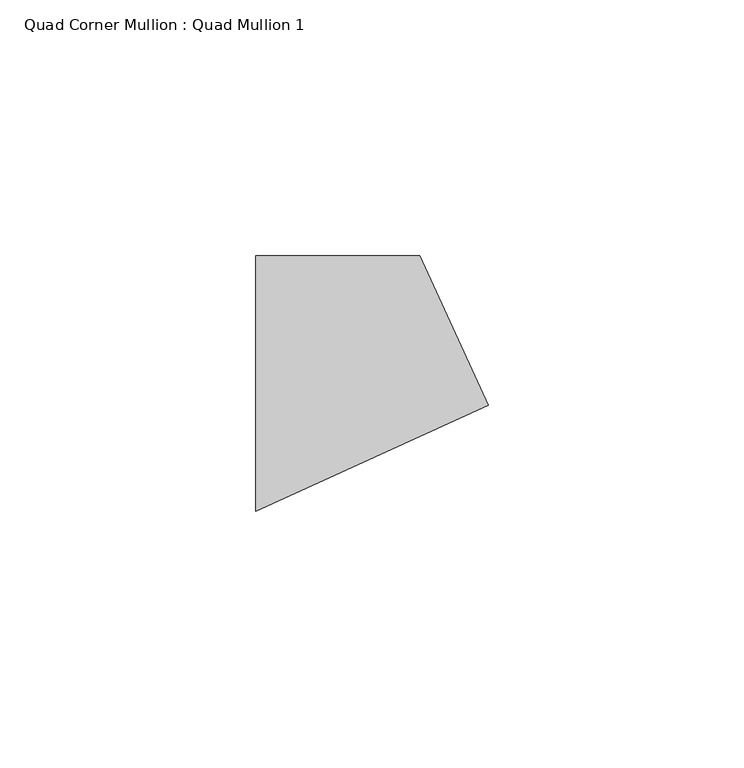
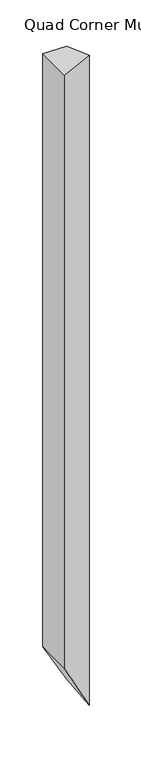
"""IFC4 building model written with IfcOpenShell, lengths in millimetres: member geometry, Quad Corner Mullion : Quad Mullion 1."""

from ifc_helpers import new_model, si_unit, origin, place, context, project, spatial, faceted_brep, source, transform, mapped, element, save


def quad_corner_mullion_quad_mullion_1_dbbd1ade(model_context):
    return source(origin(), model_context, "Body", "Brep", [
        faceted_brep([(29.4125559, -4.1926582, 0.0), (16.0523154, 25.0, 0.0), (-16.0523154, 25.0, 0.0), (-16.0523154, -25.0, 0.0), (29.4125559, -4.1926582, -926.2392298), (16.0523154, 25.0, -902.3680679), (-16.0523154, 25.0, -845.0057147), (-16.0523154, -25.0, -845.0057147)], [[[0, 1, 2, 3]], [[1, 0, 4, 5]], [[2, 1, 5, 6]], [[3, 2, 6, 7]], [[0, 3, 7, 4]], [[4, 7, 6, 5]]]),
    ])


if __name__ == "__main__":
    model = new_model("IFC4")
    model_context = context("Model", 3, world=origin())
    ifc_project = project(units=[si_unit("LENGTHUNIT", "METRE", prefix="MILLI")], contexts=[model_context])
    site = spatial("IfcSite", under=ifc_project)
    building = spatial("IfcBuilding", under=site)
    placement = place(None, origin())
    quad_corner_mullion_quad_mullion_1_shape = quad_corner_mullion_quad_mullion_1_dbbd1ade(model_context)
    element("IfcMember", 1, ObjectType="Quad Corner Mullion : Quad Mullion 1", at=placement, inside=building, context=model_context, shape_type="MappedRepresentation", body=[
        mapped(quad_corner_mullion_quad_mullion_1_shape, transform((0.0, 0.0, 0.0), x_axis=(1.0, 0.0, 0.0), y_axis=(0.0, 1.0, 0.0), z_axis=(0.0, 0.0, 1.0))),
    ])
    save(model, "model.ifc")
